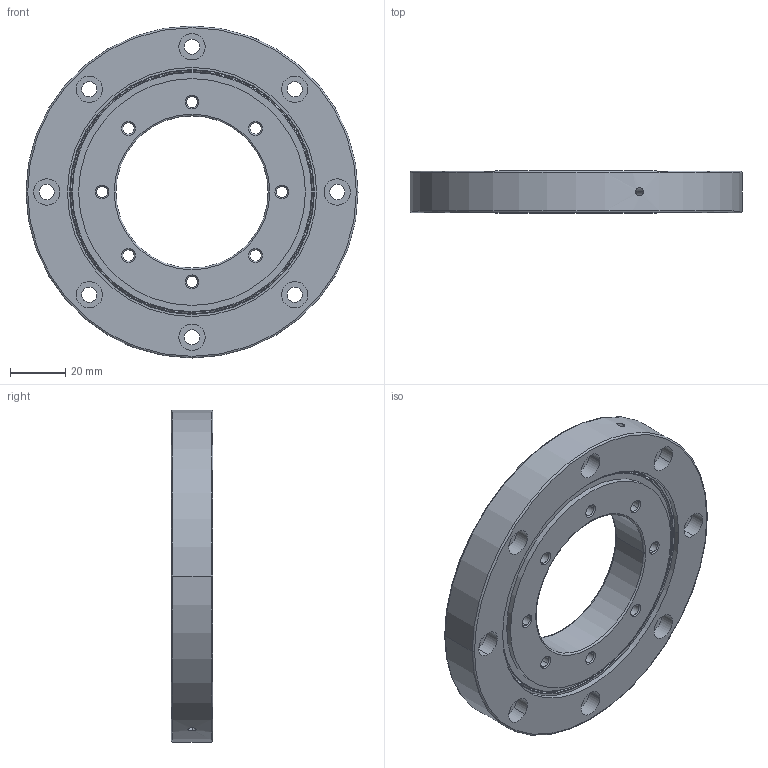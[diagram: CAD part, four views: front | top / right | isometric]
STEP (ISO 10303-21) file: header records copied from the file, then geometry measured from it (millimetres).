
FILE_DESCRIPTION(('STEP AP214'),'1');
FILE_NAME('cctmp_A9D9AC92-E53A-4E82-97A2-828C178EE9BD_2022_01_20_08_01_54_0245..stp','2022-01-20T07:01:54',('HIWIN GmbH'),('CADClick - www.CADClick.com'),'Spatial InterOp 3D',' ','unknown authorization');
FILE_SCHEMA(('AUTOMOTIVE_DESIGN'));
Length unit declared in the file: millimetre
Products named in the file (1): CRBE05515A_FILE
Bounding box: 120 x 15 x 120 mm (x, y, z)
Volume: 119261.9 mm3; surface area: 46184.6 mm2
Topology: 1 solids, 1 shells, 540 faces, 1332 edges, 900 vertices
Faces by surface type: cylinder 366, plane 118, cone 48, torus 8
Entity records: 23800 total; most frequent: CARTESIAN_POINT 6313, DIRECTION 2706, ORIENTED_EDGE 2664, EDGE_CURVE 1332, AXIS2_PLACEMENT_3D 1141, VERTEX_POINT 900, EDGE_LOOP 780, CIRCLE 600
